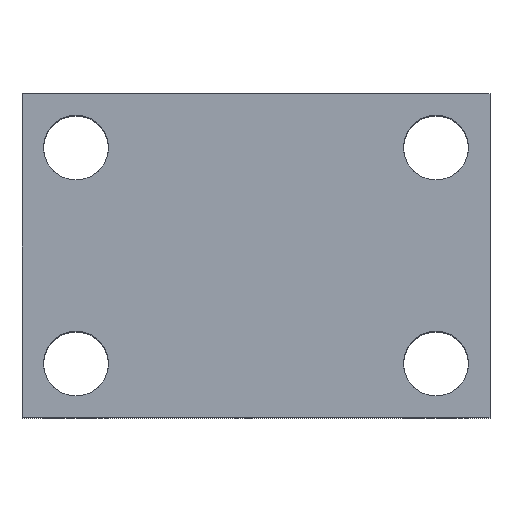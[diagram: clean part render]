
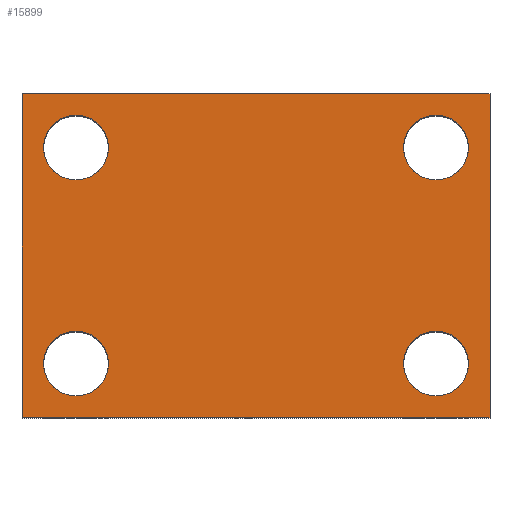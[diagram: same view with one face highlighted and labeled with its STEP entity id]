
A CAD part, top view. The second image highlights one B-rep face of the part: STEP entity #15899.
In plain terms, the highlighted planar face has unit normal (0, 0, 1).
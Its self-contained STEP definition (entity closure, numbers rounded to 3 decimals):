
#33 = CARTESIAN_POINT ( 'NONE',  ( -29.5, 37.5, 37.5 ) ) ;
#233 = CARTESIAN_POINT ( 'NONE',  ( -32.5, 45., 37.5 ) ) ;
#258 = EDGE_LOOP ( 'NONE', ( #14660, #15167 ) ) ;
#471 = DIRECTION ( 'NONE',  ( -1., 0., 0. ) ) ;
#516 = CIRCLE ( 'NONE', #2776, 4.5 ) ;
#534 = FACE_BOUND ( 'NONE', #3528, .T. ) ;
#617 = AXIS2_PLACEMENT_3D ( 'NONE', #3879, #5175, #14481 ) ;
#650 = VERTEX_POINT ( 'NONE', #7013 ) ;
#669 = LINE ( 'NONE', #7244, #11210 ) ;
#843 = VERTEX_POINT ( 'NONE', #33 ) ;
#917 = DIRECTION ( 'NONE',  ( 0., 0., -1. ) ) ;
#948 = FACE_BOUND ( 'NONE', #4741, .T. ) ;
#995 = VERTEX_POINT ( 'NONE', #1265 ) ;
#1265 = CARTESIAN_POINT ( 'NONE',  ( -32.5, 0., 37.5 ) ) ;
#1281 = EDGE_CURVE ( 'NONE', #995, #2005, #7507, .T. ) ;
#1691 = CARTESIAN_POINT ( 'NONE',  ( -20.5, 37.5, 37.5 ) ) ;
#1764 = CARTESIAN_POINT ( 'NONE',  ( -20.5, 7.5, 37.5 ) ) ;
#1859 = DIRECTION ( 'NONE',  ( 0., 0., -1. ) ) ;
#1876 = VERTEX_POINT ( 'NONE', #12122 ) ;
#1933 = EDGE_CURVE ( 'NONE', #843, #14744, #12753, .T. ) ;
#2005 = VERTEX_POINT ( 'NONE', #8378 ) ;
#2038 = ORIENTED_EDGE ( 'NONE', *, *, #16694, .F. ) ;
#2173 = VECTOR ( 'NONE', #5101, 1000. ) ;
#2573 = PLANE ( 'NONE',  #617 ) ;
#2776 = AXIS2_PLACEMENT_3D ( 'NONE', #14383, #6390, #15705 ) ;
#2809 = DIRECTION ( 'NONE',  ( 0., 0., -1. ) ) ;
#2849 = CIRCLE ( 'NONE', #11021, 4.5 ) ;
#2854 = CARTESIAN_POINT ( 'NONE',  ( -29.5, 7.5, 37.5 ) ) ;
#2889 = VERTEX_POINT ( 'NONE', #2854 ) ;
#2952 = EDGE_CURVE ( 'NONE', #16616, #8169, #516, .T. ) ;
#2966 = ORIENTED_EDGE ( 'NONE', *, *, #6431, .T. ) ;
#3528 = EDGE_LOOP ( 'NONE', ( #12464, #2966 ) ) ;
#3851 = DIRECTION ( 'NONE',  ( 0., 0., -1. ) ) ;
#3879 = CARTESIAN_POINT ( 'NONE',  ( -32.5, 45., 37.5 ) ) ;
#4080 = VECTOR ( 'NONE', #8420, 1000. ) ;
#4266 = VECTOR ( 'NONE', #9418, 1000. ) ;
#4529 = ORIENTED_EDGE ( 'NONE', *, *, #2952, .T. ) ;
#4652 = LINE ( 'NONE', #233, #4266 ) ;
#4695 = EDGE_LOOP ( 'NONE', ( #11532, #12477, #2038, #15306 ) ) ;
#4741 = EDGE_LOOP ( 'NONE', ( #16795, #12592 ) ) ;
#5101 = DIRECTION ( 'NONE',  ( 0., -1., 0. ) ) ;
#5175 = DIRECTION ( 'NONE',  ( 0., 0., -1. ) ) ;
#5944 = AXIS2_PLACEMENT_3D ( 'NONE', #16338, #8298, #471 ) ;
#6390 = DIRECTION ( 'NONE',  ( 0., 0., -1. ) ) ;
#6431 = EDGE_CURVE ( 'NONE', #10968, #2889, #11840, .T. ) ;
#7013 = CARTESIAN_POINT ( 'NONE',  ( 20.5, 37.5, 37.5 ) ) ;
#7070 = EDGE_CURVE ( 'NONE', #14744, #843, #10589, .T. ) ;
#7219 = CIRCLE ( 'NONE', #5944, 4.5 ) ;
#7244 = CARTESIAN_POINT ( 'NONE',  ( -32.5, 45., 37.5 ) ) ;
#7403 = EDGE_CURVE ( 'NONE', #16580, #995, #669, .T. ) ;
#7471 = FACE_BOUND ( 'NONE', #16414, .T. ) ;
#7507 = LINE ( 'NONE', #9759, #4080 ) ;
#7678 = AXIS2_PLACEMENT_3D ( 'NONE', #8757, #917, #10121 ) ;
#7815 = DIRECTION ( 'NONE',  ( 0., 0., -1. ) ) ;
#7923 = ORIENTED_EDGE ( 'NONE', *, *, #11195, .T. ) ;
#8169 = VERTEX_POINT ( 'NONE', #8584 ) ;
#8298 = DIRECTION ( 'NONE',  ( 0., 0., -1. ) ) ;
#8378 = CARTESIAN_POINT ( 'NONE',  ( 32.5, 0., 37.5 ) ) ;
#8420 = DIRECTION ( 'NONE',  ( 1., 0., 0. ) ) ;
#8571 = VERTEX_POINT ( 'NONE', #9427 ) ;
#8584 = CARTESIAN_POINT ( 'NONE',  ( 29.5, 7.5, 37.5 ) ) ;
#8757 = CARTESIAN_POINT ( 'NONE',  ( 25., 37.5, 37.5 ) ) ;
#8895 = AXIS2_PLACEMENT_3D ( 'NONE', #10691, #2809, #12057 ) ;
#9313 = DIRECTION ( 'NONE',  ( 0., 0., -1. ) ) ;
#9418 = DIRECTION ( 'NONE',  ( 1., 0., 0. ) ) ;
#9427 = CARTESIAN_POINT ( 'NONE',  ( 32.5, 45., 37.5 ) ) ;
#9440 = EDGE_CURVE ( 'NONE', #8571, #2005, #15822, .T. ) ;
#9712 = CARTESIAN_POINT ( 'NONE',  ( 25., 37.5, 37.5 ) ) ;
#9759 = CARTESIAN_POINT ( 'NONE',  ( -32.5, 0., 37.5 ) ) ;
#10121 = DIRECTION ( 'NONE',  ( -1., 0., 0. ) ) ;
#10361 = CARTESIAN_POINT ( 'NONE',  ( -32.5, 45., 37.5 ) ) ;
#10370 = CIRCLE ( 'NONE', #7678, 4.5 ) ;
#10415 = CARTESIAN_POINT ( 'NONE',  ( 20.5, 7.5, 37.5 ) ) ;
#10589 = CIRCLE ( 'NONE', #13942, 4.5 ) ;
#10650 = FACE_OUTER_BOUND ( 'NONE', #4695, .T. ) ;
#10691 = CARTESIAN_POINT ( 'NONE',  ( -25., 7.5, 37.5 ) ) ;
#10968 = VERTEX_POINT ( 'NONE', #1764 ) ;
#10998 = EDGE_CURVE ( 'NONE', #2889, #10968, #7219, .T. ) ;
#11021 = AXIS2_PLACEMENT_3D ( 'NONE', #9712, #1859, #11081 ) ;
#11081 = DIRECTION ( 'NONE',  ( -1., 0., 0. ) ) ;
#11115 = EDGE_CURVE ( 'NONE', #650, #1876, #10370, .T. ) ;
#11195 = EDGE_CURVE ( 'NONE', #8169, #16616, #17072, .T. ) ;
#11210 = VECTOR ( 'NONE', #15249, 1000. ) ;
#11303 = AXIS2_PLACEMENT_3D ( 'NONE', #11784, #3851, #13111 ) ;
#11532 = ORIENTED_EDGE ( 'NONE', *, *, #1281, .T. ) ;
#11784 = CARTESIAN_POINT ( 'NONE',  ( 25., 7.5, 37.5 ) ) ;
#11840 = CIRCLE ( 'NONE', #8895, 4.5 ) ;
#12057 = DIRECTION ( 'NONE',  ( -1., 0., 0. ) ) ;
#12097 = DIRECTION ( 'NONE',  ( -1., 0., 0. ) ) ;
#12122 = CARTESIAN_POINT ( 'NONE',  ( 29.5, 37.5, 37.5 ) ) ;
#12464 = ORIENTED_EDGE ( 'NONE', *, *, #10998, .T. ) ;
#12477 = ORIENTED_EDGE ( 'NONE', *, *, #9440, .F. ) ;
#12592 = ORIENTED_EDGE ( 'NONE', *, *, #7070, .T. ) ;
#12597 = AXIS2_PLACEMENT_3D ( 'NONE', #17191, #9313, #12097 ) ;
#12753 = CIRCLE ( 'NONE', #12597, 4.5 ) ;
#13111 = DIRECTION ( 'NONE',  ( -1., 0., 0. ) ) ;
#13942 = AXIS2_PLACEMENT_3D ( 'NONE', #15847, #7815, #17219 ) ;
#14187 = FACE_BOUND ( 'NONE', #258, .T. ) ;
#14383 = CARTESIAN_POINT ( 'NONE',  ( 25., 7.5, 37.5 ) ) ;
#14404 = CARTESIAN_POINT ( 'NONE',  ( 32.5, 45., 37.5 ) ) ;
#14481 = DIRECTION ( 'NONE',  ( -1., 0., 0. ) ) ;
#14660 = ORIENTED_EDGE ( 'NONE', *, *, #11115, .T. ) ;
#14744 = VERTEX_POINT ( 'NONE', #1691 ) ;
#15167 = ORIENTED_EDGE ( 'NONE', *, *, #15246, .T. ) ;
#15246 = EDGE_CURVE ( 'NONE', #1876, #650, #2849, .T. ) ;
#15249 = DIRECTION ( 'NONE',  ( 0., -1., 0. ) ) ;
#15306 = ORIENTED_EDGE ( 'NONE', *, *, #7403, .T. ) ;
#15705 = DIRECTION ( 'NONE',  ( -1., 0., 0. ) ) ;
#15822 = LINE ( 'NONE', #14404, #2173 ) ;
#15847 = CARTESIAN_POINT ( 'NONE',  ( -25., 37.5, 37.5 ) ) ;
#15899 = ADVANCED_FACE ( 'NONE', ( #948, #534, #7471, #14187, #10650 ), #2573, .F. ) ;
#16338 = CARTESIAN_POINT ( 'NONE',  ( -25., 7.5, 37.5 ) ) ;
#16414 = EDGE_LOOP ( 'NONE', ( #4529, #7923 ) ) ;
#16580 = VERTEX_POINT ( 'NONE', #10361 ) ;
#16616 = VERTEX_POINT ( 'NONE', #10415 ) ;
#16694 = EDGE_CURVE ( 'NONE', #16580, #8571, #4652, .T. ) ;
#16795 = ORIENTED_EDGE ( 'NONE', *, *, #1933, .T. ) ;
#17072 = CIRCLE ( 'NONE', #11303, 4.5 ) ;
#17191 = CARTESIAN_POINT ( 'NONE',  ( -25., 37.5, 37.5 ) ) ;
#17219 = DIRECTION ( 'NONE',  ( -1., 0., 0. ) ) ;
